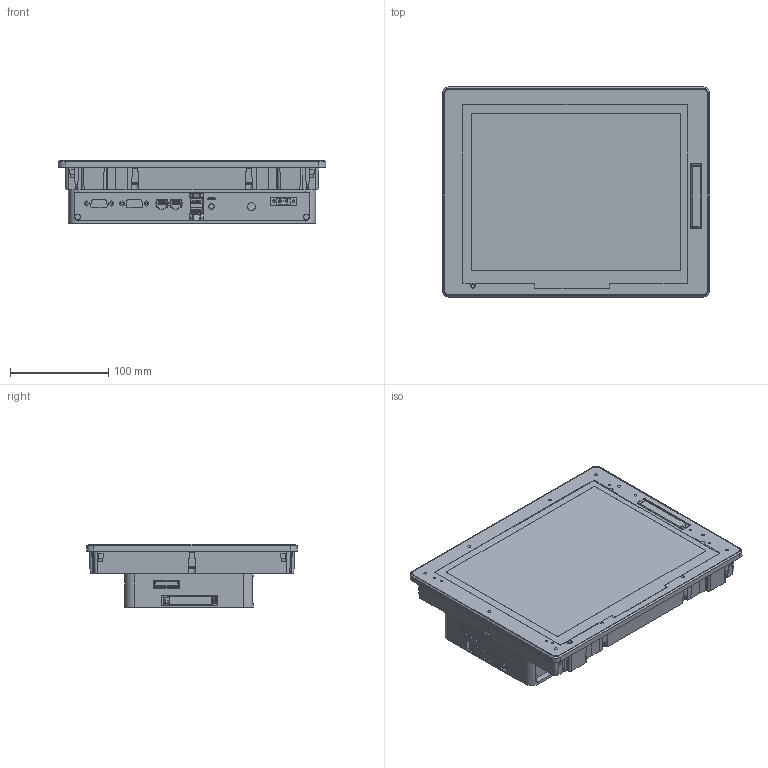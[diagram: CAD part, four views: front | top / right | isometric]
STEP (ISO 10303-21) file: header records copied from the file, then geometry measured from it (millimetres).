
FILE_DESCRIPTION (( 'STEP AP203' ), '1' );
FILE_NAME ('PFXGP6540TMDAI.STEP', '2024-05-31T13:57:51', ( '' ), ( '' ), 'SwSTEP 2.0', 'SolidWorks 2020', '' );
FILE_SCHEMA (( 'CONFIG_CONTROL_DESIGN' ));
Products named in the file (1): PFXGP6540TMDAI
Bounding box: 272.5 x 214.5 x 64.28 mm (x, y, z)
Volume: 2548479.9 mm3; surface area: 300384.6 mm2
Topology: 7 solids, 40 shells, 2916 faces, 8004 edges, 5213 vertices
Faces by surface type: plane 1801, cylinder 798, bspline 156, cone 146, torus 8, sphere 7
Entity records: 105993 total; most frequent: CARTESIAN_POINT 34202, ORIENTED_EDGE 15966, DIRECTION 13305, EDGE_CURVE 7983, LINE 5603, VECTOR 5603, VERTEX_POINT 5213, AXIS2_PLACEMENT_3D 3851
